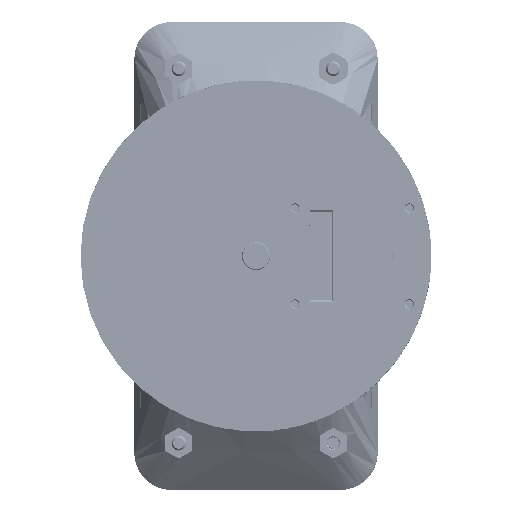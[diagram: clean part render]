
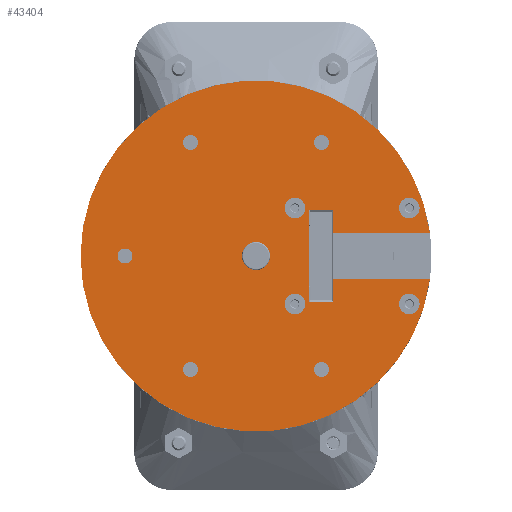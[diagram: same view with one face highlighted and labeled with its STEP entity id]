
A CAD part, front view. The second image highlights one B-rep face of the part: STEP entity #43404.
In plain terms, the highlighted planar face has unit normal (0, -1, 0) as drawn and (0, 0, 1) by its records, which use the part's own axes.
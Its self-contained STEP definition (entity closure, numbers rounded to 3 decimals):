
#2073=FACE_BOUND('',#8919,.T.);
#2074=FACE_BOUND('',#8920,.T.);
#2075=FACE_BOUND('',#8921,.T.);
#2076=FACE_BOUND('',#8922,.T.);
#2077=FACE_BOUND('',#8923,.T.);
#2078=FACE_BOUND('',#8924,.T.);
#2079=FACE_BOUND('',#8925,.T.);
#2080=FACE_BOUND('',#8926,.T.);
#2081=FACE_BOUND('',#8927,.T.);
#2082=FACE_BOUND('',#8928,.T.);
#3249=PLANE('',#47539);
#6310=FACE_OUTER_BOUND('',#8918,.T.);
#8918=EDGE_LOOP('',(#40788,#40789,#40790,#40791,#40792,#40793,#40794,#40795,
#40796));
#8919=EDGE_LOOP('',(#40797));
#8920=EDGE_LOOP('',(#40798));
#8921=EDGE_LOOP('',(#40799));
#8922=EDGE_LOOP('',(#40800));
#8923=EDGE_LOOP('',(#40801));
#8924=EDGE_LOOP('',(#40802));
#8925=EDGE_LOOP('',(#40803));
#8926=EDGE_LOOP('',(#40804));
#8927=EDGE_LOOP('',(#40805));
#8928=EDGE_LOOP('',(#40806));
#12601=LINE('',#95874,#16289);
#12603=LINE('',#95880,#16291);
#12607=LINE('',#95889,#16295);
#12608=LINE('',#95891,#16296);
#12609=LINE('',#95893,#16297);
#12610=LINE('',#95895,#16298);
#12611=LINE('',#95896,#16299);
#16289=VECTOR('',#58646,10.);
#16291=VECTOR('',#58650,10.);
#16295=VECTOR('',#58660,10.);
#16296=VECTOR('',#58661,10.);
#16297=VECTOR('',#58662,10.);
#16298=VECTOR('',#58663,10.);
#16299=VECTOR('',#58664,10.);
#17880=CIRCLE('',#47491,1.6);
#17882=CIRCLE('',#47494,1.6);
#17886=CIRCLE('',#47500,1.6);
#17888=CIRCLE('',#47503,1.6);
#17890=CIRCLE('',#47506,1.6);
#17893=CIRCLE('',#47511,2.2);
#17897=CIRCLE('',#47518,2.2);
#17901=CIRCLE('',#47525,2.2);
#17905=CIRCLE('',#47532,2.2);
#17908=CIRCLE('',#47540,37.5);
#17909=CIRCLE('',#47541,37.5);
#17910=CIRCLE('',#47542,3.);
#22002=VERTEX_POINT('',#95781);
#22004=VERTEX_POINT('',#95787);
#22008=VERTEX_POINT('',#95799);
#22010=VERTEX_POINT('',#95805);
#22012=VERTEX_POINT('',#95811);
#22015=VERTEX_POINT('',#95820);
#22019=VERTEX_POINT('',#95833);
#22023=VERTEX_POINT('',#95846);
#22027=VERTEX_POINT('',#95859);
#22030=VERTEX_POINT('',#95868);
#22032=VERTEX_POINT('',#95872);
#22033=VERTEX_POINT('',#95876);
#22035=VERTEX_POINT('',#95879);
#22037=VERTEX_POINT('',#95888);
#22038=VERTEX_POINT('',#95890);
#22039=VERTEX_POINT('',#95892);
#22040=VERTEX_POINT('',#95894);
#22041=VERTEX_POINT('',#95897);
#22042=VERTEX_POINT('',#95900);
#28256=EDGE_CURVE('',#22002,#22002,#17880,.T.);
#28259=EDGE_CURVE('',#22004,#22004,#17882,.T.);
#28265=EDGE_CURVE('',#22008,#22008,#17886,.T.);
#28268=EDGE_CURVE('',#22010,#22010,#17888,.T.);
#28271=EDGE_CURVE('',#22012,#22012,#17890,.T.);
#28274=EDGE_CURVE('',#22015,#22015,#17893,.T.);
#28280=EDGE_CURVE('',#22019,#22019,#17897,.T.);
#28286=EDGE_CURVE('',#22023,#22023,#17901,.T.);
#28292=EDGE_CURVE('',#22027,#22027,#17905,.T.);
#28299=EDGE_CURVE('',#22030,#22032,#12601,.T.);
#28301=EDGE_CURVE('',#22035,#22033,#12603,.T.);
#28306=EDGE_CURVE('',#22032,#22037,#12607,.T.);
#28307=EDGE_CURVE('',#22037,#22038,#12608,.T.);
#28308=EDGE_CURVE('',#22038,#22039,#12609,.T.);
#28309=EDGE_CURVE('',#22039,#22040,#12610,.T.);
#28310=EDGE_CURVE('',#22040,#22035,#12611,.T.);
#28311=EDGE_CURVE('',#22033,#22041,#17908,.T.);
#28312=EDGE_CURVE('',#22041,#22030,#17909,.T.);
#28313=EDGE_CURVE('',#22042,#22042,#17910,.T.);
#40788=ORIENTED_EDGE('',*,*,#28299,.T.);
#40789=ORIENTED_EDGE('',*,*,#28306,.T.);
#40790=ORIENTED_EDGE('',*,*,#28307,.T.);
#40791=ORIENTED_EDGE('',*,*,#28308,.T.);
#40792=ORIENTED_EDGE('',*,*,#28309,.T.);
#40793=ORIENTED_EDGE('',*,*,#28310,.T.);
#40794=ORIENTED_EDGE('',*,*,#28301,.T.);
#40795=ORIENTED_EDGE('',*,*,#28311,.T.);
#40796=ORIENTED_EDGE('',*,*,#28312,.T.);
#40797=ORIENTED_EDGE('',*,*,#28256,.T.);
#40798=ORIENTED_EDGE('',*,*,#28259,.T.);
#40799=ORIENTED_EDGE('',*,*,#28265,.T.);
#40800=ORIENTED_EDGE('',*,*,#28268,.T.);
#40801=ORIENTED_EDGE('',*,*,#28271,.T.);
#40802=ORIENTED_EDGE('',*,*,#28274,.T.);
#40803=ORIENTED_EDGE('',*,*,#28280,.T.);
#40804=ORIENTED_EDGE('',*,*,#28286,.T.);
#40805=ORIENTED_EDGE('',*,*,#28292,.T.);
#40806=ORIENTED_EDGE('',*,*,#28313,.T.);
#43404=ADVANCED_FACE('',(#6310,#2073,#2074,#2075,#2076,#2077,#2078,#2079,
#2080,#2081,#2082),#3249,.T.);
#47491=AXIS2_PLACEMENT_3D('',#95783,#58540,#58541);
#47494=AXIS2_PLACEMENT_3D('',#95789,#58547,#58548);
#47500=AXIS2_PLACEMENT_3D('',#95801,#58561,#58562);
#47503=AXIS2_PLACEMENT_3D('',#95807,#58568,#58569);
#47506=AXIS2_PLACEMENT_3D('',#95813,#58575,#58576);
#47511=AXIS2_PLACEMENT_3D('',#95821,#58585,#58586);
#47518=AXIS2_PLACEMENT_3D('',#95834,#58601,#58602);
#47525=AXIS2_PLACEMENT_3D('',#95847,#58617,#58618);
#47532=AXIS2_PLACEMENT_3D('',#95860,#58633,#58634);
#47539=AXIS2_PLACEMENT_3D('',#95887,#58658,#58659);
#47540=AXIS2_PLACEMENT_3D('',#95898,#58665,#58666);
#47541=AXIS2_PLACEMENT_3D('',#95899,#58667,#58668);
#47542=AXIS2_PLACEMENT_3D('',#95901,#58669,#58670);
#58540=DIRECTION('center_axis',(0.,0.,
-1.));
#58541=DIRECTION('ref_axis',(-0.5,0.866,0.));
#58547=DIRECTION('center_axis',(0.,0.,
-1.));
#58548=DIRECTION('ref_axis',(0.5,0.866,0.));
#58561=DIRECTION('center_axis',(0.,0.,
-1.));
#58562=DIRECTION('ref_axis',(0.5,-0.866,0.));
#58568=DIRECTION('center_axis',(0.,0.,
-1.));
#58569=DIRECTION('ref_axis',(-0.5,-0.866,0.));
#58575=DIRECTION('center_axis',(0.,0.,
-1.));
#58576=DIRECTION('ref_axis',(-1.,0.,0.));
#58585=DIRECTION('center_axis',(0.,0.,
-1.));
#58586=DIRECTION('ref_axis',(1.,0.,0.));
#58601=DIRECTION('center_axis',(0.,0.,
-1.));
#58602=DIRECTION('ref_axis',(1.,0.,0.));
#58617=DIRECTION('center_axis',(0.,0.,
-1.));
#58618=DIRECTION('ref_axis',(1.,0.,0.));
#58633=DIRECTION('center_axis',(0.,0.,
-1.));
#58634=DIRECTION('ref_axis',(1.,0.,0.));
#58646=DIRECTION('',(-1.,0.,0.));
#58650=DIRECTION('',(1.,0.,0.));
#58658=DIRECTION('center_axis',(0.,0.,
1.));
#58659=DIRECTION('ref_axis',(1.,0.,0.));
#58660=DIRECTION('',(0.,-1.,0.));
#58661=DIRECTION('',(-1.,0.,0.));
#58662=DIRECTION('',(0.,1.,0.));
#58663=DIRECTION('',(1.,0.,0.));
#58664=DIRECTION('',(0.,-1.,0.));
#58665=DIRECTION('center_axis',(0.,0.,
1.));
#58666=DIRECTION('ref_axis',(1.,0.,0.));
#58667=DIRECTION('center_axis',(0.,0.,
1.));
#58668=DIRECTION('ref_axis',(1.,0.,0.));
#58669=DIRECTION('center_axis',(0.,0.,
-1.));
#58670=DIRECTION('ref_axis',(-1.,0.,0.));
#95781=CARTESIAN_POINT('',(-38.7,22.863,8.2));
#95783=CARTESIAN_POINT('Origin',(-39.5,24.249,8.2));
#95787=CARTESIAN_POINT('',(-12.3,22.863,8.2));
#95789=CARTESIAN_POINT('Origin',(-11.5,24.249,8.2));
#95799=CARTESIAN_POINT('',(-12.3,-22.863,8.2));
#95801=CARTESIAN_POINT('Origin',(-11.5,-24.249,8.2));
#95805=CARTESIAN_POINT('',(-38.7,-22.863,8.2));
#95807=CARTESIAN_POINT('Origin',(-39.5,-24.249,8.2));
#95811=CARTESIAN_POINT('',(-51.9,0.,8.2));
#95813=CARTESIAN_POINT('Origin',(-53.5,0.,
8.2));
#95820=CARTESIAN_POINT('',(5.05,10.25,8.2));
#95821=CARTESIAN_POINT('Origin',(7.25,10.25,8.2));
#95833=CARTESIAN_POINT('',(-19.4,10.25,8.2));
#95834=CARTESIAN_POINT('Origin',(-17.2,10.25,8.2));
#95846=CARTESIAN_POINT('',(5.05,-10.25,8.2));
#95847=CARTESIAN_POINT('Origin',(7.25,-10.25,8.2));
#95859=CARTESIAN_POINT('',(-19.4,-10.25,8.2));
#95860=CARTESIAN_POINT('Origin',(-17.2,-10.25,8.2));
#95868=CARTESIAN_POINT('',(11.665,-5.,8.2));
#95872=CARTESIAN_POINT('',(-9.07,-5.,8.2));
#95874=CARTESIAN_POINT('',(1.27,-5.,8.2));
#95876=CARTESIAN_POINT('',(11.665,5.,8.2));
#95879=CARTESIAN_POINT('',(-9.07,5.,8.2));
#95880=CARTESIAN_POINT('',(-18.626,5.,8.2));
#95887=CARTESIAN_POINT('Origin',(-25.5,0.,
8.2));
#95888=CARTESIAN_POINT('',(-9.07,-9.889,8.2));
#95889=CARTESIAN_POINT('',(-9.07,9.773,8.2));
#95890=CARTESIAN_POINT('',(-14.105,-9.889,8.2));
#95891=CARTESIAN_POINT('',(-9.07,-9.889,8.2));
#95892=CARTESIAN_POINT('',(-14.105,9.773,8.2));
#95893=CARTESIAN_POINT('',(-14.105,-9.889,8.2));
#95894=CARTESIAN_POINT('',(-9.07,9.773,8.2));
#95895=CARTESIAN_POINT('',(-14.105,9.773,8.2));
#95896=CARTESIAN_POINT('',(-9.07,9.773,8.2));
#95897=CARTESIAN_POINT('',(-63.,0.,8.2));
#95898=CARTESIAN_POINT('Origin',(-25.5,0.,
8.2));
#95899=CARTESIAN_POINT('Origin',(-25.5,0.,
8.2));
#95900=CARTESIAN_POINT('',(-22.5,0.,8.2));
#95901=CARTESIAN_POINT('Origin',(-25.5,0.,
8.2));
